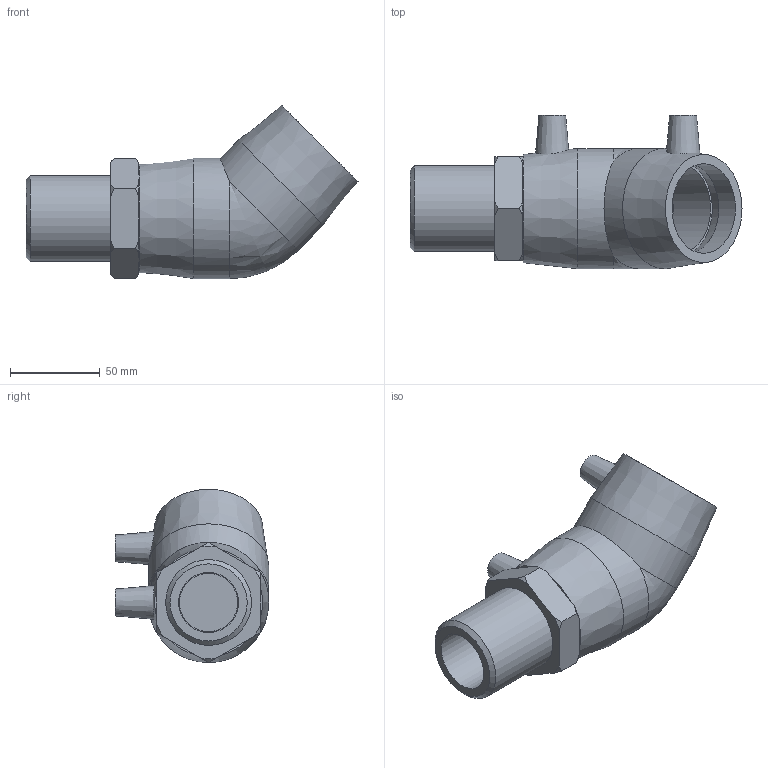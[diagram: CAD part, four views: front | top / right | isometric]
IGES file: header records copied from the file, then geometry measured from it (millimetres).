
Global section: file name: 492604050015N.ipt; native system: Autodesk Inventor 2015; preprocessor: unknown; author: KIM; date: 20200202.122427; units: millimetre
Bounding box: 185 x 85.5 x 96.52 mm (x, y, z)
Volume: 326553.6 mm3; surface area: 67619.4 mm2
Topology: 1 solids, 2 shells, 61 faces, 146 edges, 99 vertices
Faces by surface type: plane 25, cone 17, revolution 10, cylinder 8, bspline 1
Full cylindrical faces by diameter (mm): 4 x2, 47.803 x1, 50 x2, 67 x2
